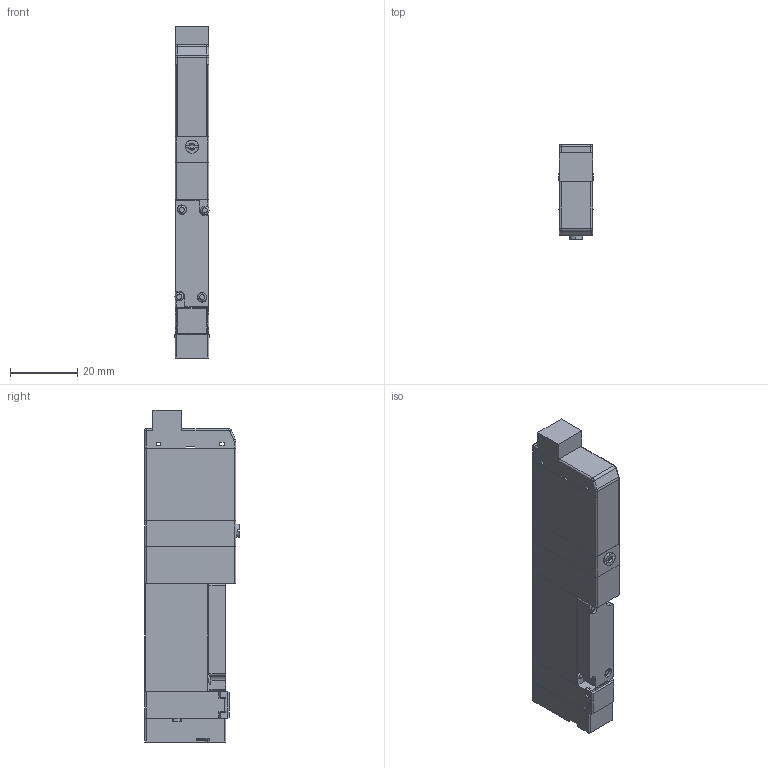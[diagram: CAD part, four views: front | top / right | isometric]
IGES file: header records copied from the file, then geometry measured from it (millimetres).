
Start section: ------------------------------------------------------------------------
Global section: file name: D:\ICADMX\tmp\trans3d_spg\CVICAD02.18204.F10T1-A1-PN_8484.igs; native system: spGate; preprocessor: ver12.6.6; author: Unknown; organization: Unknown; date: 200901.142400; units: millimetre
Bounding box: 10.2 x 28 x 98.5 mm (x, y, z)
Volume: 23720.7 mm3; surface area: 11096 mm2
Topology: 7 solids, 7 shells, 286 faces, 740 edges, 482 vertices
Faces by surface type: bspline 286
